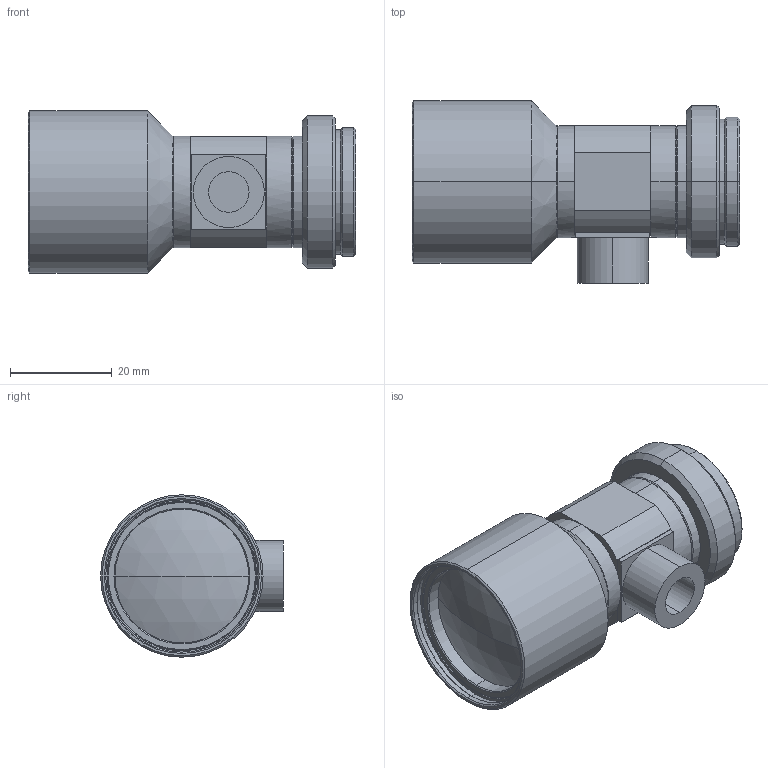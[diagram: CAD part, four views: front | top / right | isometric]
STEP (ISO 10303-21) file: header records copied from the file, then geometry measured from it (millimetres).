
FILE_DESCRIPTION (( 'STEP AP203' ), '1' );
FILE_NAME ('VS-TCH15-65CO.STEP', '2014-04-21T00:35:06', ( '' ), ( '' ), 'SwSTEP 2.0', 'SolidWorks 2014', '' );
FILE_SCHEMA (( 'CONFIG_CONTROL_DESIGN' ));
Length unit declared in the file: millimetre
Products named in the file (1): VS-TCH15-65CO
Bounding box: 64.5 x 36 x 32 mm (x, y, z)
Volume: 34868.1 mm3; surface area: 9331.6 mm2
Topology: 1 solids, 1 shells, 123 faces, 256 edges, 148 vertices
Faces by surface type: cone 50, cylinder 38, plane 31, sphere 4
Entity records: 3317 total; most frequent: DIRECTION 638, CARTESIAN_POINT 528, ORIENTED_EDGE 512, AXIS2_PLACEMENT_3D 258, EDGE_CURVE 256, VERTEX_POINT 148, EDGE_LOOP 136, CIRCLE 134
